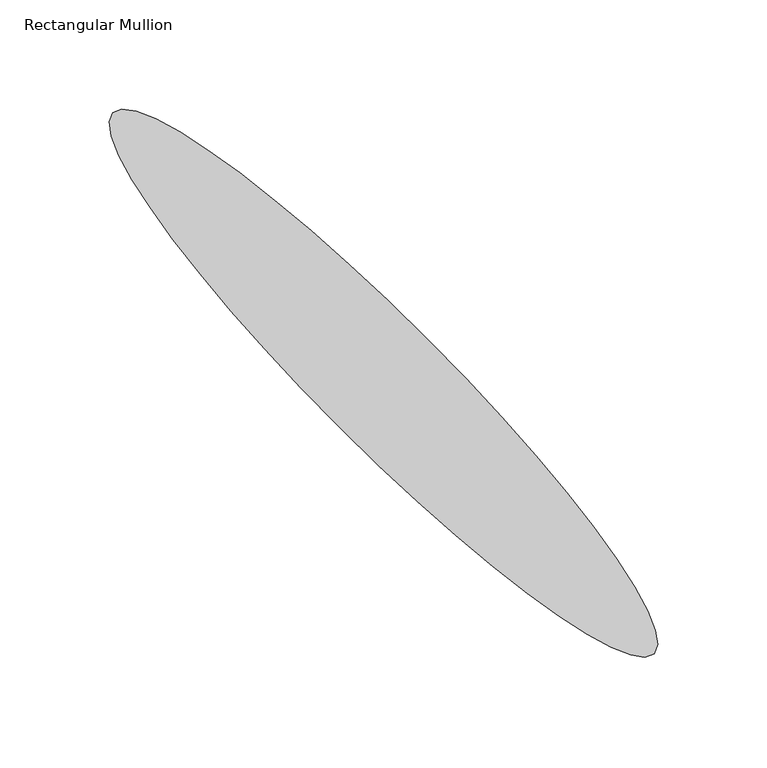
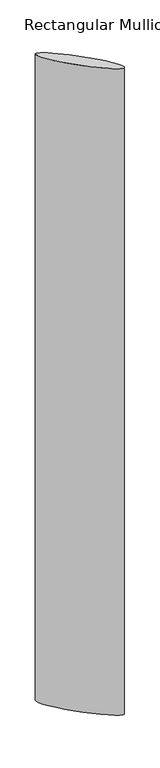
"""IFC4 building model written with IfcOpenShell, lengths in millimetres: member geometry, Rectangular Mullion : RSen_21_CWM_blade - 350 ellips - 45°_gen_duco projects."""

from ifc_helpers import new_model, si_unit, point, frame, origin, place, context, project, spatial, ellipse_curve, trimmed, source, transform, mapped, element, save
from ifc_brep_helpers import plane_surface, extruded_surface, advanced_brep


def rectangular_mullion_80596749(model_context):
    return source(origin(), model_context, "Body", "AdvancedBrep", [
        advanced_brep(
        [(123.7436867, 7.2563133, 0.0), (-123.7436867, 254.7436867, 0.0), (123.7436867, 7.2563133, -3000.0), (-123.7436867, 254.7436867, -3000.0)],
        [
            (0, 1, ellipse_curve(frame((0.0, 131.0, 0.0), z_axis=(0.0, 0.0, 1.0000000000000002), x_axis=(-0.7071067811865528, 0.7071067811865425, 0.0)), 175.0, 28.5)),
            (1, 0, ellipse_curve(frame((0.0, 131.0, 0.0), z_axis=(0.0, 0.0, 1.0000000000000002), x_axis=(-0.7071067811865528, 0.7071067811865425, 0.0)), 175.0, 28.5)),
            (2, 3, ellipse_curve(frame((0.0, 131.0, -3000.0), z_axis=(0.0, 0.0, -1.0000000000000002), x_axis=(-0.7071067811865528, 0.7071067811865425, 0.0)), 175.0, 28.5)),
            (3, 2, ellipse_curve(frame((0.0, 131.0, -3000.0), z_axis=(0.0, 0.0, -1.0000000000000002), x_axis=(-0.7071067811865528, 0.7071067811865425, 0.0)), 175.0, 28.5)),
            (0, 2),
            (3, 1),
        ],
        [
            plane_surface(frame((0.0, -283.2081318, 0.0), z_axis=(0.0, 0.0, 1.0), x_axis=(-1.0, 0.0, 0.0))),
            plane_surface(frame((0.0, -283.2081318, -3000.0), z_axis=(0.0, 0.0, -1.0), x_axis=(-1.0, 0.0, 0.0))),
            extruded_surface(trimmed(ellipse_curve(frame((0.0, 131.0, -3000.0), z_axis=(0.0, 0.0, 1.0000000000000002), x_axis=(-0.7071067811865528, 0.7071067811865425, 0.0)), 175.0, 28.5), [point((123.7436867, 7.2563133, -3000.0))], [point((-123.7436867, 254.7436867, -3000.0))], True, "CARTESIAN"), (0.0, 0.0, 3000.0), 3000.0),
            extruded_surface(trimmed(ellipse_curve(frame((0.0, 131.0, -3000.0), z_axis=(0.0, 0.0, 1.0000000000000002), x_axis=(-0.7071067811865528, 0.7071067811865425, 0.0)), 175.0, 28.5), [point((-123.7436867, 254.7436867, -3000.0))], [point((123.7436867, 7.2563133, -3000.0))], True, "CARTESIAN"), (0.0, 0.0, 3000.0), 3000.0),
        ],
        [
            (0, [[1, 2]]),
            (1, [[3, 4]]),
            (2, [[-1, 5, -4, 6]]),
            (3, [[-2, -6, -3, -5]]),
        ],
    ),
    ])


if __name__ == "__main__":
    model = new_model("IFC4")
    model_context = context("Model", 3, world=origin())
    ifc_project = project(units=[si_unit("LENGTHUNIT", "METRE", prefix="MILLI")], contexts=[model_context])
    site = spatial("IfcSite", under=ifc_project)
    building = spatial("IfcBuilding", under=site)
    placement = place(None, origin())
    rectangular_mullion_shape = rectangular_mullion_80596749(model_context)
    element("IfcMember", 1, ObjectType="Rectangular Mullion : RSen_21_CWM_blade - 350 ellips - 45°_gen_duco projects", at=placement, inside=building, context=model_context, shape_type="MappedRepresentation", body=[
        mapped(rectangular_mullion_shape, transform((0.0, 0.0, 0.0), x_axis=(1.0, 0.0, 0.0), y_axis=(0.0, 1.0, 0.0), z_axis=(0.0, 0.0, 1.0))),
    ])
    save(model, "model.ifc")
